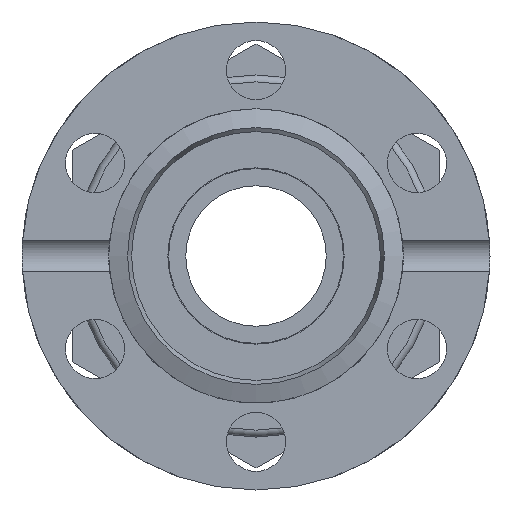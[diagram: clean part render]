
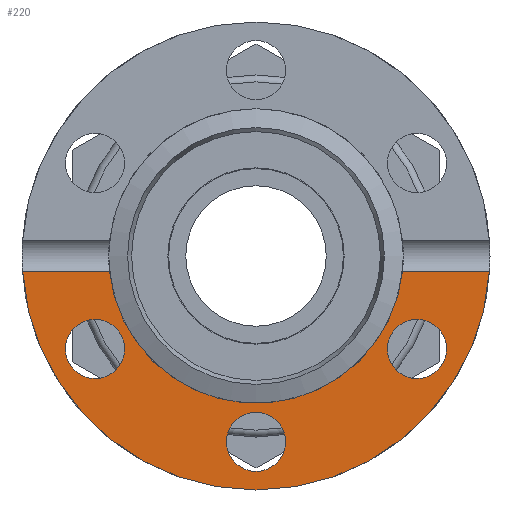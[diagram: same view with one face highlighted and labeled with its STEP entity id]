
A CAD part, left-side view. The second image highlights one B-rep face of the part: STEP entity #220.
In plain terms, the highlighted planar face has unit normal (-1, 0, 0).
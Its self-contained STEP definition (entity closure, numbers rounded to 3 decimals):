
#220 = ADVANCED_FACE( '', ( #446, #447, #448, #449 ), #450, .F. );
#446 = FACE_BOUND( '', #672, .T. );
#447 = FACE_BOUND( '', #673, .T. );
#448 = FACE_BOUND( '', #674, .T. );
#449 = FACE_OUTER_BOUND( '', #675, .T. );
#450 = PLANE( '', #676 );
#672 = EDGE_LOOP( '', ( #1013 ) );
#673 = EDGE_LOOP( '', ( #1014 ) );
#674 = EDGE_LOOP( '', ( #1015 ) );
#675 = EDGE_LOOP( '', ( #1016, #1017, #1018, #1019 ) );
#676 = AXIS2_PLACEMENT_3D( '', #1020, #1021, #1022 );
#1013 = ORIENTED_EDGE( '', *, *, #1185, .F. );
#1014 = ORIENTED_EDGE( '', *, *, #1127, .F. );
#1015 = ORIENTED_EDGE( '', *, *, #1232, .F. );
#1016 = ORIENTED_EDGE( '', *, *, #1220, .T. );
#1017 = ORIENTED_EDGE( '', *, *, #1123, .T. );
#1018 = ORIENTED_EDGE( '', *, *, #1171, .F. );
#1019 = ORIENTED_EDGE( '', *, *, #1189, .T. );
#1020 = CARTESIAN_POINT( '', ( -7.6, 0., 17. ) );
#1021 = DIRECTION( '', ( 1., 0., 0. ) );
#1022 = DIRECTION( '', ( 0., 0., -1. ) );
#1123 = EDGE_CURVE( '', #1273, #1271, #1274, .T. );
#1127 = EDGE_CURVE( '', #1279, #1279, #1280, .T. );
#1171 = EDGE_CURVE( '', #1351, #1271, #1353, .T. );
#1185 = EDGE_CURVE( '', #1372, #1372, #1373, .T. );
#1189 = EDGE_CURVE( '', #1351, #1378, #1379, .T. );
#1220 = EDGE_CURVE( '', #1378, #1273, #1423, .T. );
#1232 = EDGE_CURVE( '', #1438, #1438, #1439, .T. );
#1271 = VERTEX_POINT( '', #1516 );
#1273 = VERTEX_POINT( '', #1531 );
#1274 = LINE( '', #1532, #1533 );
#1279 = VERTEX_POINT( '', #1551 );
#1280 = CIRCLE( '', #1552, 2.15 );
#1351 = VERTEX_POINT( '', #1635 );
#1353 = CIRCLE( '', #1650, 10.7 );
#1372 = VERTEX_POINT( '', #1672 );
#1373 = CIRCLE( '', #1673, 2.15 );
#1378 = VERTEX_POINT( '', #1678 );
#1379 = LINE( '', #1679, #1680 );
#1423 = CIRCLE( '', #1741, 17. );
#1438 = VERTEX_POINT( '', #1758 );
#1439 = CIRCLE( '', #1759, 2.15 );
#1516 = CARTESIAN_POINT( '', ( -7.6, -10.641, -1.118 ) );
#1531 = CARTESIAN_POINT( '', ( -7.6, -16.963, -1.118 ) );
#1532 = CARTESIAN_POINT( '', ( -7.6, -17., -1.118 ) );
#1533 = VECTOR( '', #1830, 1000. );
#1551 = CARTESIAN_POINT( '', ( -7.6, -10.616, -8.612 ) );
#1552 = AXIS2_PLACEMENT_3D( '', #1834, #1835, #1836 );
#1635 = CARTESIAN_POINT( '', ( -7.6, 10.641, -1.118 ) );
#1650 = AXIS2_PLACEMENT_3D( '', #1906, #1907, #1908 );
#1672 = CARTESIAN_POINT( '', ( -7.6, 12.766, -4.888 ) );
#1673 = AXIS2_PLACEMENT_3D( '', #1927, #1928, #1929 );
#1678 = CARTESIAN_POINT( '', ( -7.6, 16.963, -1.118 ) );
#1679 = CARTESIAN_POINT( '', ( -7.6, -17., -1.118 ) );
#1680 = VECTOR( '', #1933, 1000. );
#1741 = AXIS2_PLACEMENT_3D( '', #1974, #1975, #1976 );
#1758 = CARTESIAN_POINT( '', ( -7.6, 2.15, -13.5 ) );
#1759 = AXIS2_PLACEMENT_3D( '', #1988, #1989, #1990 );
#1830 = DIRECTION( '', ( 0., 1., 0. ) );
#1834 = CARTESIAN_POINT( '', ( -7.6, -11.691, -6.75 ) );
#1835 = DIRECTION( '', ( -1., 0., 0. ) );
#1836 = DIRECTION( '', ( 0., 0.5, -0.866 ) );
#1906 = CARTESIAN_POINT( '', ( -7.6, 0., 0. ) );
#1907 = DIRECTION( '', ( -1., 0., 0. ) );
#1908 = DIRECTION( '', ( 0., 0., 1. ) );
#1927 = CARTESIAN_POINT( '', ( -7.6, 11.691, -6.75 ) );
#1928 = DIRECTION( '', ( -1., 0., 0. ) );
#1929 = DIRECTION( '', ( 0., 0.5, 0.866 ) );
#1933 = DIRECTION( '', ( 0., 1., 0. ) );
#1974 = CARTESIAN_POINT( '', ( -7.6, 0., 0. ) );
#1975 = DIRECTION( '', ( -1., 0., 0. ) );
#1976 = DIRECTION( '', ( 0., 0., 1. ) );
#1988 = CARTESIAN_POINT( '', ( -7.6, 0., -13.5 ) );
#1989 = DIRECTION( '', ( -1., 0., 0. ) );
#1990 = DIRECTION( '', ( 0., 1., 0. ) );
